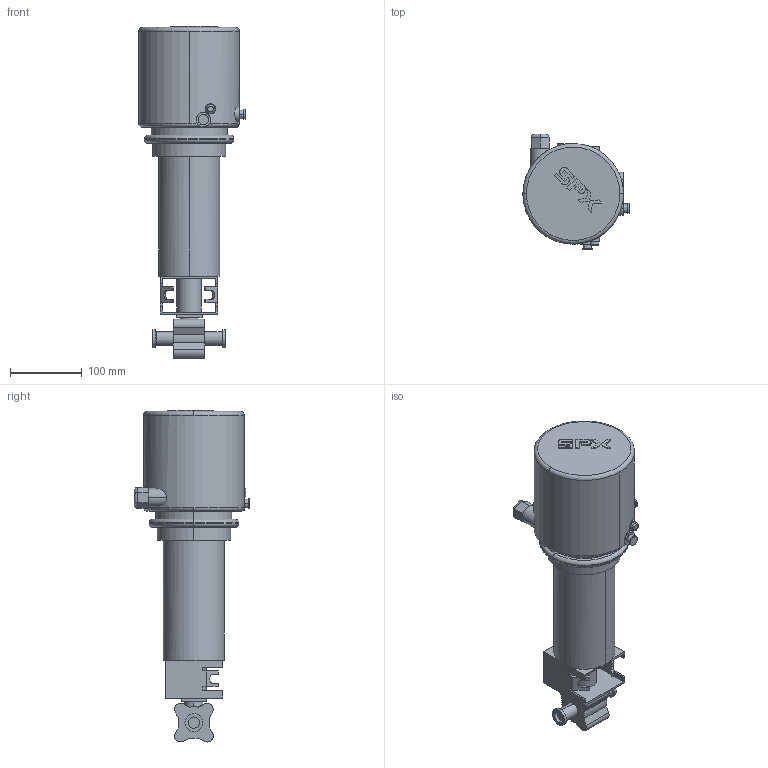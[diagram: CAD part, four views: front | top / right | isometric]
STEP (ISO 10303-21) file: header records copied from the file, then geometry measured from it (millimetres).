
FILE_DESCRIPTION(('Creo Elements/Direct Modeling STEP Export'),'2;1');
FILE_NAME('BLV1-0.75T-NC-12CL-CU4.stp','2019-05-10T 7:54:32',(''),(''),'Creo Elements/Direct Modeling STEP processor for AP214 (Solid Model)','Creo Elements/Direct Modeling 19.0F 14-Feb-2017 (C) Parametric Technology GmbH','');
FILE_SCHEMA(('AUTOMOTIVE_DESIGN { 1 0 10303 214 1 1 1 1 }'));
Length unit declared in the file: millimetre
Products named in the file (2): BLV1-0.75T-NC-12CL-CU4
Assembly tree (1 placements, depth 2):
  BLV1-0.75T-NC-12CL-CU4
    BLV1-0.75T-NC-12CL-CU4
Bounding box: 148 x 161.4 x 462.43 mm (x, y, z)
Volume: 3684884.5 mm3; surface area: 223591.8 mm2
Topology: 1 solids, 1 shells, 236 faces, 598 edges, 387 vertices
Faces by surface type: cylinder 114, plane 104, torus 10, extrusion 4, cone 4
Entity records: 10118 total; most frequent: CARTESIAN_POINT 4539, ORIENTED_EDGE 1198, DIRECTION 1072, EDGE_CURVE 599, AXIS2_PLACEMENT_3D 391, VERTEX_POINT 387, VECTOR 290, LINE 286
